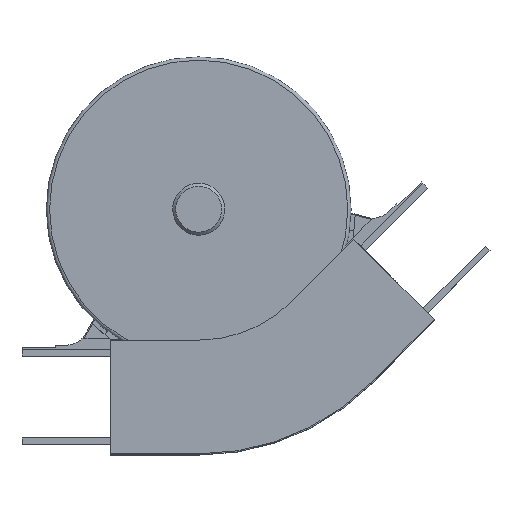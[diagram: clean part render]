
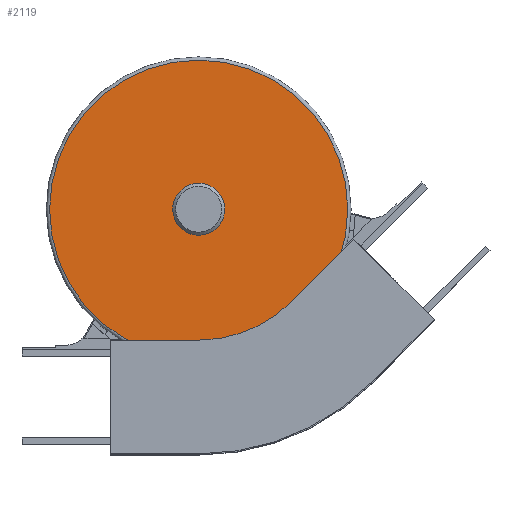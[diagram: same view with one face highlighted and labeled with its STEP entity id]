
A CAD part, top view. The second image highlights one B-rep face of the part: STEP entity #2119.
In plain terms, the highlighted planar face has unit normal (0, 0, 1).
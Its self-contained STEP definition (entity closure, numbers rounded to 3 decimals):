
#44=FACE_BOUND('',#347,.T.);
#83=CIRCLE('',#2281,21.);
#84=CIRCLE('',#2283,135.);
#218=FACE_OUTER_BOUND('',#346,.T.);
#346=EDGE_LOOP('',(#1799));
#347=EDGE_LOOP('',(#1800));
#1027=VERTEX_POINT('',#3369);
#1028=VERTEX_POINT('',#3373);
#1291=EDGE_CURVE('',#1027,#1027,#83,.T.);
#1293=EDGE_CURVE('',#1028,#1028,#84,.T.);
#1799=ORIENTED_EDGE('',*,*,#1293,.F.);
#1800=ORIENTED_EDGE('',*,*,#1291,.T.);
#2008=PLANE('',#2282);
#2119=ADVANCED_FACE('',(#218,#44),#2008,.T.);
#2281=AXIS2_PLACEMENT_3D('',#3370,#2754,#2755);
#2282=AXIS2_PLACEMENT_3D('',#3372,#2757,#2758);
#2283=AXIS2_PLACEMENT_3D('',#3374,#2759,#2760);
#2754=DIRECTION('center_axis',(0.,0.,-1.));
#2755=DIRECTION('ref_axis',(1.,0.,0.));
#2757=DIRECTION('center_axis',(0.,0.,1.));
#2758=DIRECTION('ref_axis',(1.,0.,0.));
#2759=DIRECTION('center_axis',(0.,0.,-1.));
#2760=DIRECTION('ref_axis',(1.,0.,0.));
#3369=CARTESIAN_POINT('',(88.036,150.599,39.));
#3370=CARTESIAN_POINT('Origin',(80.,170.,39.));
#3372=CARTESIAN_POINT('Origin',(28.338,294.724,39.));
#3373=CARTESIAN_POINT('',(215.,170.,39.));
#3374=CARTESIAN_POINT('Origin',(80.,170.,39.));
